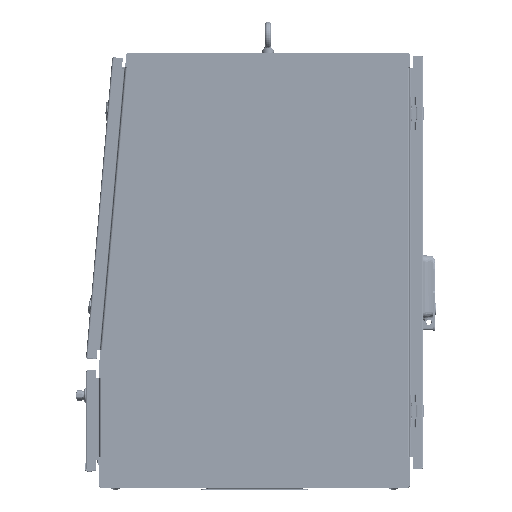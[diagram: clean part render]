
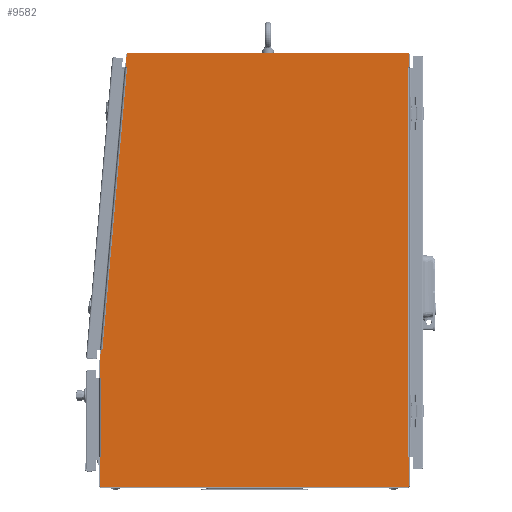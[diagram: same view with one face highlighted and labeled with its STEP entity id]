
A CAD part, top view. The second image highlights one B-rep face of the part: STEP entity #9582.
In plain terms, the highlighted planar face has unit normal (0, 0, 1).
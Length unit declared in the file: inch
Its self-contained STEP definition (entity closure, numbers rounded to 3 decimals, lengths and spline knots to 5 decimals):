
#5950=DIRECTION('',(-0.087,-0.996,0.));
#5951=VECTOR('',#5950,0.0156);
#5952=CARTESIAN_POINT('',(-23.97585,10.72064,0.));
#5953=LINE('',#5952,#5951);
#5957=DIRECTION('',(0.087,0.996,0.));
#5958=VECTOR('',#5957,22.15601);
#5959=CARTESIAN_POINT('',(-23.97585,10.72064,0.));
#5960=LINE('',#5959,#5958);
#5964=DIRECTION('',(0.087,0.996,0.));
#5965=VECTOR('',#5964,0.0156);
#5966=CARTESIAN_POINT('',(-22.04483,32.79234,0.));
#5967=LINE('',#5966,#5965);
#5971=DIRECTION('',(0.966,-0.259,0.));
#5972=VECTOR('',#5971,0.12084);
#5973=CARTESIAN_POINT('',(-22.16018,32.83915,0.));
#5974=LINE('',#5973,#5972);
#5978=DIRECTION('',(-0.087,-0.996,0.));
#5979=VECTOR('',#5978,0.99535);
#5980=CARTESIAN_POINT('',(-22.07343,33.83072,0.));
#5981=LINE('',#5980,#5979);
#5985=DIRECTION('',(-1.,0.,0.));
#5986=VECTOR('',#5985,21.87381);
#5987=CARTESIAN_POINT('',(-0.1,33.922,0.));
#5988=LINE('',#5987,#5986);
#5992=DIRECTION('',(0.,1.,0.));
#5993=VECTOR('',#5992,0.99642);
#5994=CARTESIAN_POINT('',(0.,32.82558,0.));
#5995=LINE('',#5994,#5993);
#5999=DIRECTION('',(-0.985,-0.174,0.));
#6000=VECTOR('',#5999,0.12084);
#6001=CARTESIAN_POINT('',(0.,32.82558,0.));
#6002=LINE('',#6001,#6000);
#6006=DIRECTION('',(0.,1.,0.));
#6007=VECTOR('',#6006,0.0156);
#6008=CARTESIAN_POINT('',(-0.119,32.789,0.));
#6009=LINE('',#6008,#6007);
#6013=DIRECTION('',(0.,1.,0.));
#6014=VECTOR('',#6013,30.406);
#6015=CARTESIAN_POINT('',(-0.119,2.383,0.));
#6016=LINE('',#6015,#6014);
#6020=DIRECTION('',(0.,-1.,0.));
#6021=VECTOR('',#6020,0.0156);
#6022=CARTESIAN_POINT('',(-0.119,2.383,0.));
#6023=LINE('',#6022,#6021);
#6027=DIRECTION('',(-0.985,0.174,0.));
#6028=VECTOR('',#6027,0.12084);
#6029=CARTESIAN_POINT('',(0.,2.34642,0.));
#6030=LINE('',#6029,#6028);
#6034=DIRECTION('',(0.,1.,0.));
#6035=VECTOR('',#6034,2.24642);
#6036=CARTESIAN_POINT('',(0.,0.1,0.));
#6037=LINE('',#6036,#6035);
#6041=DIRECTION('',(1.,0.,0.));
#6042=VECTOR('',#6041,23.972);
#6043=CARTESIAN_POINT('',(-24.072,0.,0.));
#6044=LINE('',#6043,#6042);
#6048=DIRECTION('',(0.,-1.,0.));
#6049=VECTOR('',#6048,2.24642);
#6050=CARTESIAN_POINT('',(-24.172,2.34642,0.));
#6051=LINE('',#6050,#6049);
#6055=DIRECTION('',(0.985,0.174,0.));
#6056=VECTOR('',#6055,0.12084);
#6057=CARTESIAN_POINT('',(-24.172,2.34642,0.));
#6058=LINE('',#6057,#6056);
#6062=DIRECTION('',(0.,-1.,0.));
#6063=VECTOR('',#6062,0.0156);
#6064=CARTESIAN_POINT('',(-24.053,2.383,0.));
#6065=LINE('',#6064,#6063);
#6069=DIRECTION('',(0.,1.,0.));
#6070=VECTOR('',#6069,6.156);
#6071=CARTESIAN_POINT('',(-24.053,2.383,0.));
#6072=LINE('',#6071,#6070);
#6076=DIRECTION('',(0.,1.,0.));
#6077=VECTOR('',#6076,0.0156);
#6078=CARTESIAN_POINT('',(-24.053,8.539,0.));
#6079=LINE('',#6078,#6077);
#6083=DIRECTION('',(0.985,-0.174,0.));
#6084=VECTOR('',#6083,0.12084);
#6085=CARTESIAN_POINT('',(-24.172,8.57558,0.));
#6086=LINE('',#6085,#6084);
#6090=DIRECTION('',(0.,-1.,0.));
#6091=VECTOR('',#6090,1.26842);
#6092=CARTESIAN_POINT('',(-24.172,9.844,0.));
#6093=LINE('',#6092,#6091);
#6097=DIRECTION('',(-0.087,-0.996,0.));
#6098=VECTOR('',#6097,0.85382);
#6099=CARTESIAN_POINT('',(-24.09758,10.69457,0.));
#6100=LINE('',#6099,#6098);
#6104=DIRECTION('',(0.996,0.087,0.));
#6105=VECTOR('',#6104,0.12084);
#6106=CARTESIAN_POINT('',(-24.09758,10.69457,0.));
#6107=LINE('',#6106,#6105);
#6423=CARTESIAN_POINT('',(-24.072,0.1,0.));
#6424=DIRECTION('',(0.,0.,1.));
#6425=DIRECTION('',(-1.,0.,0.));
#6426=AXIS2_PLACEMENT_3D('',#6423,#6424,#6425);
#6453=CARTESIAN_POINT('',(-0.1,0.1,0.));
#6454=DIRECTION('',(0.,0.,1.));
#6455=DIRECTION('',(0.,-1.,0.));
#6456=AXIS2_PLACEMENT_3D('',#6453,#6454,#6455);
#6559=CARTESIAN_POINT('',(-0.1,33.822,0.));
#6560=DIRECTION('',(0.,0.,1.));
#6561=DIRECTION('',(1.,0.,0.));
#6562=AXIS2_PLACEMENT_3D('',#6559,#6560,#6561);
#6589=CARTESIAN_POINT('',(-21.97381,33.822,0.));
#6590=DIRECTION('',(0.,0.,1.));
#6591=DIRECTION('',(0.,1.,0.));
#6592=AXIS2_PLACEMENT_3D('',#6589,#6590,#6591);
#9013=CARTESIAN_POINT('',(-24.172,9.844,0.));
#9015=VERTEX_POINT('',#9013);
#9033=CARTESIAN_POINT('',(-0.119,2.383,0.));
#9034=CARTESIAN_POINT('',(-0.119,2.3674,0.));
#9035=VERTEX_POINT('',#9033);
#9036=VERTEX_POINT('',#9034);
#9037=CARTESIAN_POINT('',(0.,2.34642,0.));
#9038=VERTEX_POINT('',#9037);
#9045=CARTESIAN_POINT('',(-0.119,32.789,0.));
#9046=CARTESIAN_POINT('',(-0.119,32.8046,0.));
#9047=VERTEX_POINT('',#9045);
#9048=VERTEX_POINT('',#9046);
#9049=CARTESIAN_POINT('',(0.,32.82558,0.));
#9050=VERTEX_POINT('',#9049);
#9058=CARTESIAN_POINT('',(-21.97381,33.922,0.));
#9060=VERTEX_POINT('',#9058);
#9061=CARTESIAN_POINT('',(-22.07343,33.83072,0.));
#9062=VERTEX_POINT('',#9061);
#9066=CARTESIAN_POINT('',(-24.172,0.1,0.));
#9068=VERTEX_POINT('',#9066);
#9069=CARTESIAN_POINT('',(-24.072,0.,0.));
#9070=VERTEX_POINT('',#9069);
#9089=CARTESIAN_POINT('',(-24.053,8.539,0.));
#9090=CARTESIAN_POINT('',(-24.053,8.5546,0.));
#9091=VERTEX_POINT('',#9089);
#9092=VERTEX_POINT('',#9090);
#9093=CARTESIAN_POINT('',(-24.172,8.57558,0.));
#9094=VERTEX_POINT('',#9093);
#9101=CARTESIAN_POINT('',(-24.053,2.383,0.));
#9102=CARTESIAN_POINT('',(-24.053,2.3674,0.));
#9103=VERTEX_POINT('',#9101);
#9104=VERTEX_POINT('',#9102);
#9105=CARTESIAN_POINT('',(-24.172,2.34642,0.));
#9106=VERTEX_POINT('',#9105);
#9129=CARTESIAN_POINT('',(-22.04483,32.79234,0.));
#9130=CARTESIAN_POINT('',(-22.04347,32.80788,0.));
#9131=VERTEX_POINT('',#9129);
#9132=VERTEX_POINT('',#9130);
#9133=CARTESIAN_POINT('',(-22.16018,32.83915,0.));
#9134=VERTEX_POINT('',#9133);
#9141=CARTESIAN_POINT('',(-23.97585,10.72064,0.));
#9142=CARTESIAN_POINT('',(-23.97721,10.7051,0.));
#9143=VERTEX_POINT('',#9141);
#9144=VERTEX_POINT('',#9142);
#9145=CARTESIAN_POINT('',(-24.09758,10.69457,0.));
#9146=VERTEX_POINT('',#9145);
#9273=CARTESIAN_POINT('',(-0.1,0.,0.));
#9274=VERTEX_POINT('',#9273);
#9275=CARTESIAN_POINT('',(-0.1,33.922,0.));
#9276=VERTEX_POINT('',#9275);
#9386=CARTESIAN_POINT('',(0.,33.822,0.));
#9388=VERTEX_POINT('',#9386);
#9389=CARTESIAN_POINT('',(0.,0.1,0.));
#9390=VERTEX_POINT('',#9389);
#9521=CARTESIAN_POINT('',(0.,0.,0.));
#9522=DIRECTION('',(0.,0.,1.));
#9523=DIRECTION('',(1.,0.,0.));
#9524=AXIS2_PLACEMENT_3D('',#9521,#9522,#9523);
#9525=PLANE('',#9524);
#9527=ORIENTED_EDGE('',*,*,#9526,.F.);
#9529=ORIENTED_EDGE('',*,*,#9528,.T.);
#9531=ORIENTED_EDGE('',*,*,#9530,.T.);
#9533=ORIENTED_EDGE('',*,*,#9532,.F.);
#9535=ORIENTED_EDGE('',*,*,#9534,.F.);
#9537=ORIENTED_EDGE('',*,*,#9536,.F.);
#9539=ORIENTED_EDGE('',*,*,#9538,.F.);
#9541=ORIENTED_EDGE('',*,*,#9540,.F.);
#9543=ORIENTED_EDGE('',*,*,#9542,.F.);
#9545=ORIENTED_EDGE('',*,*,#9544,.T.);
#9547=ORIENTED_EDGE('',*,*,#9546,.F.);
#9549=ORIENTED_EDGE('',*,*,#9548,.F.);
#9551=ORIENTED_EDGE('',*,*,#9550,.T.);
#9553=ORIENTED_EDGE('',*,*,#9552,.F.);
#9555=ORIENTED_EDGE('',*,*,#9554,.F.);
#9557=ORIENTED_EDGE('',*,*,#9556,.F.);
#9559=ORIENTED_EDGE('',*,*,#9558,.F.);
#9561=ORIENTED_EDGE('',*,*,#9560,.F.);
#9563=ORIENTED_EDGE('',*,*,#9562,.F.);
#9565=ORIENTED_EDGE('',*,*,#9564,.T.);
#9567=ORIENTED_EDGE('',*,*,#9566,.F.);
#9569=ORIENTED_EDGE('',*,*,#9568,.T.);
#9571=ORIENTED_EDGE('',*,*,#9570,.T.);
#9573=ORIENTED_EDGE('',*,*,#9572,.F.);
#9575=ORIENTED_EDGE('',*,*,#9574,.F.);
#9577=ORIENTED_EDGE('',*,*,#9576,.F.);
#9579=ORIENTED_EDGE('',*,*,#9578,.T.);
#9580=EDGE_LOOP('',(#9527,#9529,#9531,#9533,#9535,#9537,#9539,#9541,#9543,#9545,
#9547,#9549,#9551,#9553,#9555,#9557,#9559,#9561,#9563,#9565,#9567,#9569,#9571,
#9573,#9575,#9577,#9579));
#9581=FACE_OUTER_BOUND('',#9580,.F.);
#6427=CIRCLE('',#6426,0.1);
#6457=CIRCLE('',#6456,0.1);
#6563=CIRCLE('',#6562,0.1);
#6593=CIRCLE('',#6592,0.1);
#9526=EDGE_CURVE('',#9143,#9144,#5953,.T.);
#9528=EDGE_CURVE('',#9143,#9131,#5960,.T.);
#9530=EDGE_CURVE('',#9131,#9132,#5967,.T.);
#9532=EDGE_CURVE('',#9134,#9132,#5974,.T.);
#9534=EDGE_CURVE('',#9062,#9134,#5981,.T.);
#9536=EDGE_CURVE('',#9060,#9062,#6593,.T.);
#9538=EDGE_CURVE('',#9276,#9060,#5988,.T.);
#9540=EDGE_CURVE('',#9388,#9276,#6563,.T.);
#9542=EDGE_CURVE('',#9050,#9388,#5995,.T.);
#9544=EDGE_CURVE('',#9050,#9048,#6002,.T.);
#9546=EDGE_CURVE('',#9047,#9048,#6009,.T.);
#9548=EDGE_CURVE('',#9035,#9047,#6016,.T.);
#9550=EDGE_CURVE('',#9035,#9036,#6023,.T.);
#9552=EDGE_CURVE('',#9038,#9036,#6030,.T.);
#9554=EDGE_CURVE('',#9390,#9038,#6037,.T.);
#9556=EDGE_CURVE('',#9274,#9390,#6457,.T.);
#9558=EDGE_CURVE('',#9070,#9274,#6044,.T.);
#9560=EDGE_CURVE('',#9068,#9070,#6427,.T.);
#9562=EDGE_CURVE('',#9106,#9068,#6051,.T.);
#9564=EDGE_CURVE('',#9106,#9104,#6058,.T.);
#9566=EDGE_CURVE('',#9103,#9104,#6065,.T.);
#9568=EDGE_CURVE('',#9103,#9091,#6072,.T.);
#9570=EDGE_CURVE('',#9091,#9092,#6079,.T.);
#9572=EDGE_CURVE('',#9094,#9092,#6086,.T.);
#9574=EDGE_CURVE('',#9015,#9094,#6093,.T.);
#9576=EDGE_CURVE('',#9146,#9015,#6100,.T.);
#9578=EDGE_CURVE('',#9146,#9144,#6107,.T.);
#9582=ADVANCED_FACE('',(#9581),#9525,.T.);
